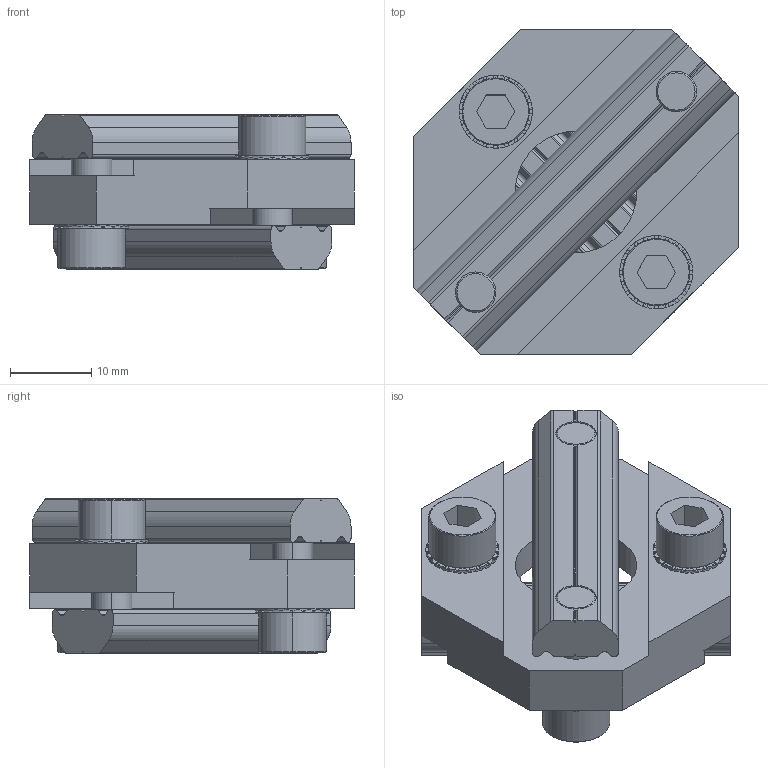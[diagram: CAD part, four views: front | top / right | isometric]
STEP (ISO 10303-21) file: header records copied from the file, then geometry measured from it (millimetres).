
FILE_DESCRIPTION (( 'STEP AP214' ), '1' );
FILE_NAME ('SMBA-1825.STEP', '2019-10-31T01:30:18', ( '微软用户' ), ( '微软中国' ), 'SwSTEP 2.0', 'SolidWorks 2016', '' );
FILE_SCHEMA (( 'AUTOMOTIVE_DESIGN' ));
Length unit declared in the file: millimetre
Products named in the file (6): PTN-M5P35; PTC-M5L14; PTS-M5; PTN-M5P28; SMBA-1825
Assembly tree (11 placements, depth 2):
  SMBA-1825
    SMBA-1825
    PTN-M5P28
    PTS-M5  x4
    PTC-M5L14  x4
    PTN-M5P35
Bounding box: 40 x 40 x 19.1 mm (x, y, z)
Volume: 11932.1 mm3; surface area: 9316.3 mm2
Topology: 11 solids, 11 shells, 868 faces, 2522 edges, 1668 vertices
Faces by surface type: plane 758, cylinder 86, cone 24
Entity records: 11016 total; most frequent: CARTESIAN_POINT 2212, ORIENTED_EDGE 1840, DIRECTION 1806, EDGE_CURVE 920, AXIS2_PLACEMENT_3D 608, VERTEX_POINT 606, VECTOR 590, LINE 590
